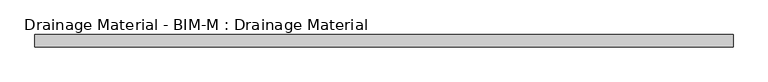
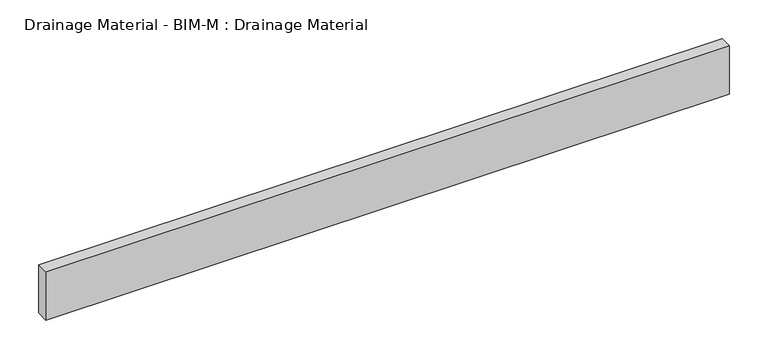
"""IFC4 building model written with IfcOpenShell, lengths in millimetres: proxy geometry, Drainage Material - BIM-M : Drainage Material."""

from ifc_helpers import new_model, si_unit, origin, origin_with_axes, place, context, project, spatial, polyline, outline, extrude, source, transform, mapped, element, save


def drainage_material_bim_m_drainage_material_b61a4f2a(model_context):
    return source(origin(), model_context, "Body", "SweptSolid", [
        extrude(outline(polyline([(508.8548077, 22.225), (508.8548077, 3.96875), (-508.8548077, 3.96875), (-508.8548077, 22.225), (508.8548077, 22.225)])), origin_with_axes(), (0.0, 0.0, 1.0), 76.2),
    ])


if __name__ == "__main__":
    model = new_model("IFC4")
    model_context = context("Model", 3, world=origin())
    ifc_project = project(units=[si_unit("LENGTHUNIT", "METRE", prefix="MILLI")], contexts=[model_context])
    site = spatial("IfcSite", under=ifc_project)
    building = spatial("IfcBuilding", under=site)
    placement = place(None, origin())
    drainage_material_bim_m_drainage_material_shape = drainage_material_bim_m_drainage_material_b61a4f2a(model_context)
    element("IfcBuildingElementProxy", 1, Name="Drainage Material - BIM-M : Drainage Material", ObjectType="Drainage Material - BIM-M : Drainage Material", at=placement, inside=building, context=model_context, shape_type="MappedRepresentation", body=[
        mapped(drainage_material_bim_m_drainage_material_shape, transform((0.0, 0.0, 0.0), x_axis=(1.0, 0.0, 0.0), y_axis=(0.0, 1.0, 0.0), z_axis=(0.0, 0.0, 1.0))),
    ])
    save(model, "model.ifc")
